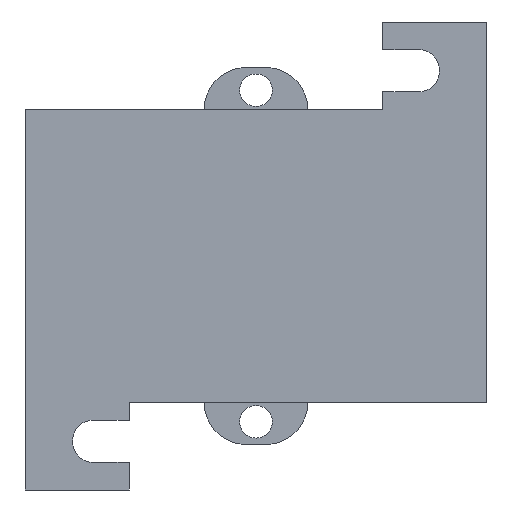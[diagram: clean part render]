
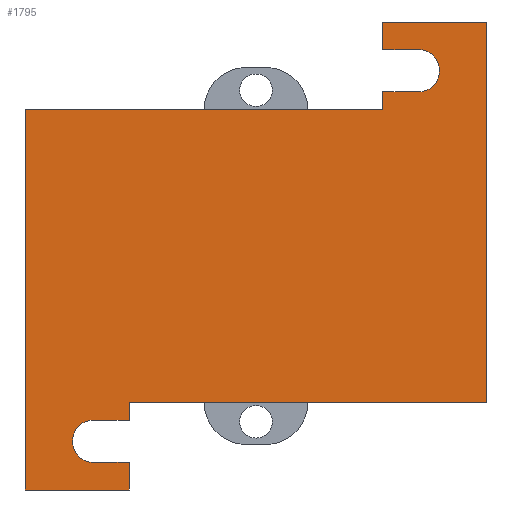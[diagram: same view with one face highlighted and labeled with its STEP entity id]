
A CAD part, front view. The second image highlights one B-rep face of the part: STEP entity #1795.
In plain terms, the highlighted planar face has unit normal (0, -1, 0).
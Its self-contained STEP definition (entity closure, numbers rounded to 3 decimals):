
#138=DIRECTION('',(1.,0.,0.));
#139=VECTOR('',#138,55.);
#140=CARTESIAN_POINT('',(-19.5,-42.75,0.));
#141=LINE('',#140,#139);
#434=DIRECTION('',(1.,0.,0.));
#435=VECTOR('',#434,55.);
#436=CARTESIAN_POINT('',(-35.5,-42.75,45.));
#437=LINE('',#436,#435);
#476=DIRECTION('',(0.,0.,1.));
#477=VECTOR('',#476,58.5);
#478=CARTESIAN_POINT('',(35.5,-42.75,0.));
#479=LINE('',#478,#477);
#550=DIRECTION('',(0.,0.,-1.));
#551=VECTOR('',#550,2.75);
#552=CARTESIAN_POINT('',(19.5,-42.75,47.75));
#553=LINE('',#552,#551);
#554=DIRECTION('',(-1.,0.,0.));
#555=VECTOR('',#554,5.5);
#556=CARTESIAN_POINT('',(25.,-42.75,47.75));
#557=LINE('',#556,#555);
#558=CARTESIAN_POINT('',(25.,-42.75,51.));
#559=DIRECTION('',(0.,1.,0.));
#560=DIRECTION('',(0.,0.,1.));
#561=AXIS2_PLACEMENT_3D('',#558,#559,#560);
#563=DIRECTION('',(1.,0.,0.));
#564=VECTOR('',#563,5.5);
#565=CARTESIAN_POINT('',(19.5,-42.75,54.25));
#566=LINE('',#565,#564);
#567=DIRECTION('',(0.,0.,-1.));
#568=VECTOR('',#567,4.25);
#569=CARTESIAN_POINT('',(19.5,-42.75,58.5));
#570=LINE('',#569,#568);
#571=DIRECTION('',(-1.,0.,0.));
#572=VECTOR('',#571,16.);
#573=CARTESIAN_POINT('',(35.5,-42.75,58.5));
#574=LINE('',#573,#572);
#575=DIRECTION('',(0.,0.,1.));
#576=VECTOR('',#575,2.75);
#577=CARTESIAN_POINT('',(-19.5,-42.75,-2.75));
#578=LINE('',#577,#576);
#579=DIRECTION('',(1.,0.,0.));
#580=VECTOR('',#579,5.5);
#581=CARTESIAN_POINT('',(-25.,-42.75,-2.75));
#582=LINE('',#581,#580);
#583=CARTESIAN_POINT('',(-25.,-42.75,-6.));
#584=DIRECTION('',(0.,1.,0.));
#585=DIRECTION('',(0.,0.,-1.));
#586=AXIS2_PLACEMENT_3D('',#583,#584,#585);
#588=DIRECTION('',(-1.,0.,0.));
#589=VECTOR('',#588,5.5);
#590=CARTESIAN_POINT('',(-19.5,-42.75,-9.25));
#591=LINE('',#590,#589);
#592=DIRECTION('',(0.,0.,1.));
#593=VECTOR('',#592,4.25);
#594=CARTESIAN_POINT('',(-19.5,-42.75,-13.5));
#595=LINE('',#594,#593);
#596=DIRECTION('',(1.,0.,0.));
#597=VECTOR('',#596,16.);
#598=CARTESIAN_POINT('',(-35.5,-42.75,-13.5));
#599=LINE('',#598,#597);
#646=DIRECTION('',(0.,0.,-1.));
#647=VECTOR('',#646,58.5);
#648=CARTESIAN_POINT('',(-35.5,-42.75,45.));
#649=LINE('',#648,#647);
#802=CARTESIAN_POINT('',(35.5,-42.75,0.));
#804=VERTEX_POINT('',#802);
#809=CARTESIAN_POINT('',(-35.5,-42.75,45.));
#811=VERTEX_POINT('',#809);
#846=CARTESIAN_POINT('',(35.5,-42.75,58.5));
#847=CARTESIAN_POINT('',(19.5,-42.75,58.5));
#848=VERTEX_POINT('',#846);
#849=VERTEX_POINT('',#847);
#850=CARTESIAN_POINT('',(19.5,-42.75,54.25));
#851=VERTEX_POINT('',#850);
#852=CARTESIAN_POINT('',(25.,-42.75,54.25));
#853=VERTEX_POINT('',#852);
#854=CARTESIAN_POINT('',(25.,-42.75,47.75));
#855=VERTEX_POINT('',#854);
#856=CARTESIAN_POINT('',(19.5,-42.75,47.75));
#857=VERTEX_POINT('',#856);
#858=CARTESIAN_POINT('',(-35.5,-42.75,-13.5));
#859=CARTESIAN_POINT('',(-19.5,-42.75,-13.5));
#860=VERTEX_POINT('',#858);
#861=VERTEX_POINT('',#859);
#862=CARTESIAN_POINT('',(-19.5,-42.75,-9.25));
#863=VERTEX_POINT('',#862);
#864=CARTESIAN_POINT('',(-25.,-42.75,-9.25));
#865=VERTEX_POINT('',#864);
#866=CARTESIAN_POINT('',(-25.,-42.75,-2.75));
#867=VERTEX_POINT('',#866);
#868=CARTESIAN_POINT('',(-19.5,-42.75,-2.75));
#869=VERTEX_POINT('',#868);
#894=CARTESIAN_POINT('',(-19.5,-42.75,0.));
#895=VERTEX_POINT('',#894);
#896=CARTESIAN_POINT('',(19.5,-42.75,45.));
#897=VERTEX_POINT('',#896);
#1760=CARTESIAN_POINT('',(-35.5,-42.75,0.));
#1761=DIRECTION('',(0.,-1.,0.));
#1762=DIRECTION('',(1.,0.,0.));
#1763=AXIS2_PLACEMENT_3D('',#1760,#1761,#1762);
#1764=PLANE('',#1763);
#1765=ORIENTED_EDGE('',*,*,#1611,.T.);
#1767=ORIENTED_EDGE('',*,*,#1766,.F.);
#1769=ORIENTED_EDGE('',*,*,#1768,.F.);
#1771=ORIENTED_EDGE('',*,*,#1770,.F.);
#1773=ORIENTED_EDGE('',*,*,#1772,.F.);
#1775=ORIENTED_EDGE('',*,*,#1774,.F.);
#1776=ORIENTED_EDGE('',*,*,#1751,.F.);
#1777=ORIENTED_EDGE('',*,*,#1693,.F.);
#1778=ORIENTED_EDGE('',*,*,#1067,.F.);
#1780=ORIENTED_EDGE('',*,*,#1779,.F.);
#1782=ORIENTED_EDGE('',*,*,#1781,.F.);
#1784=ORIENTED_EDGE('',*,*,#1783,.F.);
#1786=ORIENTED_EDGE('',*,*,#1785,.F.);
#1788=ORIENTED_EDGE('',*,*,#1787,.F.);
#1790=ORIENTED_EDGE('',*,*,#1789,.F.);
#1792=ORIENTED_EDGE('',*,*,#1791,.F.);
#1793=EDGE_LOOP('',(#1765,#1767,#1769,#1771,#1773,#1775,#1776,#1777,#1778,#1780,
#1782,#1784,#1786,#1788,#1790,#1792));
#1794=FACE_OUTER_BOUND('',#1793,.F.);
#1795=ADVANCED_FACE('',(#1794),#1764,.T.);
#562=CIRCLE('',#561,3.25);
#587=CIRCLE('',#586,3.25);
#1067=EDGE_CURVE('',#895,#804,#141,.T.);
#1611=EDGE_CURVE('',#811,#897,#437,.T.);
#1693=EDGE_CURVE('',#804,#848,#479,.T.);
#1751=EDGE_CURVE('',#848,#849,#574,.T.);
#1766=EDGE_CURVE('',#857,#897,#553,.T.);
#1768=EDGE_CURVE('',#855,#857,#557,.T.);
#1770=EDGE_CURVE('',#853,#855,#562,.T.);
#1772=EDGE_CURVE('',#851,#853,#566,.T.);
#1774=EDGE_CURVE('',#849,#851,#570,.T.);
#1779=EDGE_CURVE('',#869,#895,#578,.T.);
#1781=EDGE_CURVE('',#867,#869,#582,.T.);
#1783=EDGE_CURVE('',#865,#867,#587,.T.);
#1785=EDGE_CURVE('',#863,#865,#591,.T.);
#1787=EDGE_CURVE('',#861,#863,#595,.T.);
#1789=EDGE_CURVE('',#860,#861,#599,.T.);
#1791=EDGE_CURVE('',#811,#860,#649,.T.);
